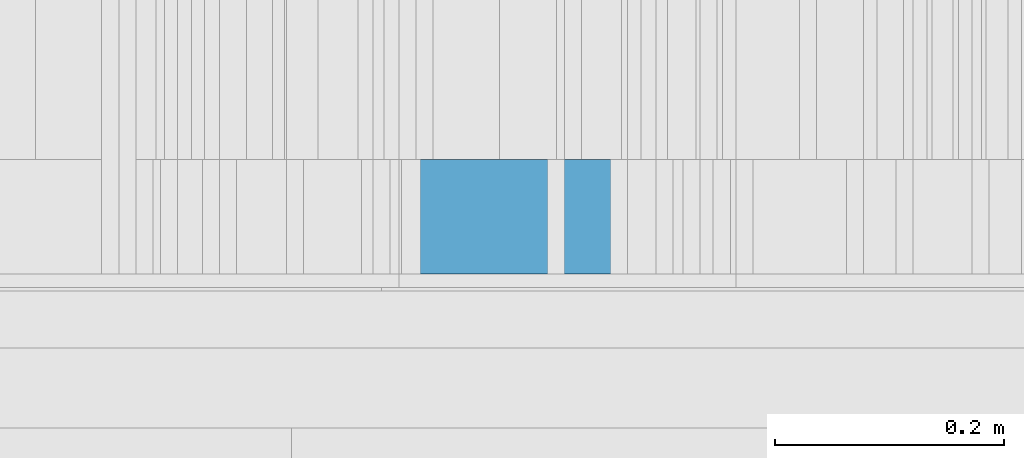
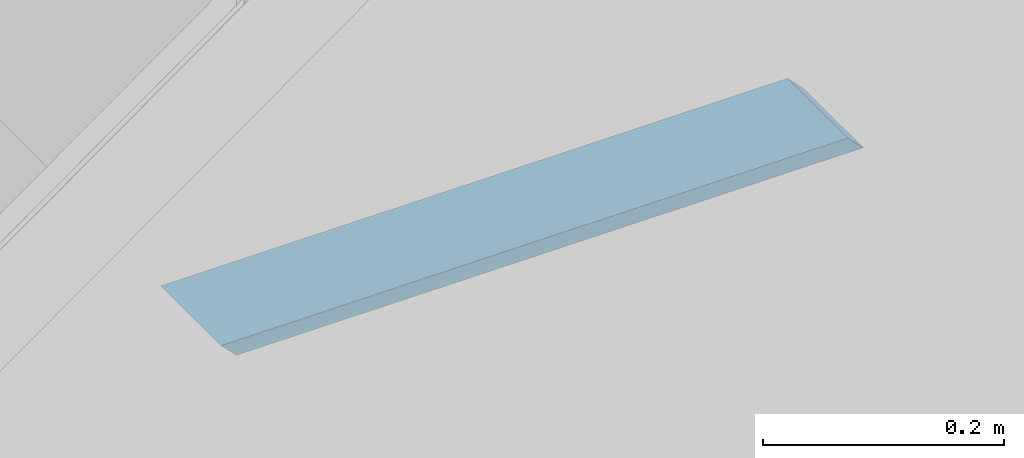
# One storey, part 179 of 583: 1 building element part, 1 element without a shape of its own.
"""IFC2X3 building model written with IfcOpenShell, lengths in metres."""

from ifc_helpers import new_model, entity, si_unit, converted_unit, derived_unit, money_unit, direction, frame, origin_with_axes, place, context, subcontext, project, spatial, polyline, outline, extrude, material, type_object, element, aggregate, save


model = new_model("IFC2X3")

# Units and contexts
model_context = context("Model", 3, precision=1e-05, world=origin_with_axes(), true_north=direction((0.0, 1.0)))
body_context = subcontext(model_context, "Body", "Model", "MODEL_VIEW", scale=1.0)
ifc_project = project(units=[si_unit("LENGTHUNIT", "METRE"), si_unit("AREAUNIT", "SQUARE_METRE"), si_unit("VOLUMEUNIT", "CUBIC_METRE"), si_unit("ABSORBEDDOSEUNIT", "GRAY"), si_unit("AMOUNTOFSUBSTANCEUNIT", "MOLE"), si_unit("DOSEEQUIVALENTUNIT", "SIEVERT"), si_unit("ELECTRICCAPACITANCEUNIT", "FARAD"), si_unit("ELECTRICCHARGEUNIT", "COULOMB"), si_unit("ELECTRICCONDUCTANCEUNIT", "SIEMENS"), si_unit("ELECTRICCURRENTUNIT", "AMPERE"), si_unit("ELECTRICRESISTANCEUNIT", "OHM"), si_unit("ELECTRICVOLTAGEUNIT", "VOLT"), si_unit("ENERGYUNIT", "JOULE"), si_unit("FORCEUNIT", "NEWTON"), si_unit("FREQUENCYUNIT", "HERTZ"), si_unit("ILLUMINANCEUNIT", "LUX"), si_unit("INDUCTANCEUNIT", "HENRY"), si_unit("LUMINOUSFLUXUNIT", "LUMEN"), si_unit("LUMINOUSINTENSITYUNIT", "CANDELA"), si_unit("MAGNETICFLUXDENSITYUNIT", "TESLA"), si_unit("MAGNETICFLUXUNIT", "WEBER"), si_unit("MASSUNIT", "GRAM"), converted_unit("PLANEANGLEUNIT", "degree", entity("IfcReal", 0.0174532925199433), si_unit("PLANEANGLEUNIT", "RADIAN"), dimensions=[0, 0, 0, 0, 0, 0, 0]), si_unit("POWERUNIT", "WATT"), si_unit("PRESSUREUNIT", "PASCAL"), si_unit("RADIOACTIVITYUNIT", "BECQUEREL"), si_unit("SOLIDANGLEUNIT", "STERADIAN"), si_unit("THERMODYNAMICTEMPERATUREUNIT", "KELVIN"), si_unit("TIMEUNIT", "SECOND"), derived_unit("ACCELERATIONUNIT", [(si_unit("LENGTHUNIT", "METRE"), 1), (si_unit("TIMEUNIT", "SECOND"), -2)]), derived_unit("ANGULARVELOCITYUNIT", [(converted_unit("PLANEANGLEUNIT", "degree", entity("IfcReal", 0.0174532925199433), si_unit("PLANEANGLEUNIT", "RADIAN"), dimensions=[0, 0, 0, 0, 0, 0, 0]), 1), (si_unit("TIMEUNIT", "SECOND"), -1)]), derived_unit("CURVATUREUNIT", [(converted_unit("PLANEANGLEUNIT", "degree", entity("IfcReal", 0.0174532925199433), si_unit("PLANEANGLEUNIT", "RADIAN"), dimensions=[0, 0, 0, 0, 0, 0, 0]), 1), (si_unit("LENGTHUNIT", "METRE"), -1)]), derived_unit("DYNAMICVISCOSITYUNIT", [(si_unit("PRESSUREUNIT", "PASCAL"), 1), (si_unit("TIMEUNIT", "SECOND"), 1)]), derived_unit("HEATFLUXDENSITYUNIT", [(si_unit("POWERUNIT", "WATT"), 1), (si_unit("LENGTHUNIT", "METRE"), -2)]), derived_unit("HEATINGVALUEUNIT", [(si_unit("ENERGYUNIT", "JOULE"), 1), (si_unit("MASSUNIT", "GRAM"), -1)]), derived_unit("INTEGERCOUNTRATEUNIT", [(si_unit("TIMEUNIT", "SECOND"), -1)]), derived_unit("IONCONCENTRATIONUNIT", [(si_unit("MASSUNIT", "GRAM"), 1), (si_unit("VOLUMEUNIT", "CUBIC_METRE"), -1)]), derived_unit("ISOTHERMALMOISTURECAPACITYUNIT", [(si_unit("VOLUMEUNIT", "CUBIC_METRE"), 1), (si_unit("MASSUNIT", "GRAM"), -1)]), derived_unit("KINEMATICVISCOSITYUNIT", [(si_unit("AREAUNIT", "SQUARE_METRE"), 1), (si_unit("TIMEUNIT", "SECOND"), -1)]), derived_unit("LINEARFORCEUNIT", [(si_unit("FORCEUNIT", "NEWTON"), 1), (si_unit("LENGTHUNIT", "METRE"), -1)]), derived_unit("LINEARMOMENTUNIT", [(si_unit("FORCEUNIT", "NEWTON"), 1), (si_unit("LENGTHUNIT", "METRE"), -1)]), derived_unit("LINEARSTIFFNESSUNIT", [(si_unit("FORCEUNIT", "NEWTON"), 1), (si_unit("LENGTHUNIT", "METRE"), -1)]), derived_unit("LINEARVELOCITYUNIT", [(si_unit("LENGTHUNIT", "METRE"), 1), (si_unit("TIMEUNIT", "SECOND"), -1)]), derived_unit("LUMINOUSINTENSITYDISTRIBUTIONUNIT", [(si_unit("LUMINOUSINTENSITYUNIT", "CANDELA"), 1), (si_unit("LUMINOUSFLUXUNIT", "LUMEN"), -1)]), derived_unit("MASSDENSITYUNIT", [(si_unit("MASSUNIT", "GRAM"), 1), (si_unit("VOLUMEUNIT", "CUBIC_METRE"), -1)]), derived_unit("MASSFLOWRATEUNIT", [(si_unit("MASSUNIT", "GRAM"), 1), (si_unit("TIMEUNIT", "SECOND"), -1)]), derived_unit("MASSPERLENGTHUNIT", [(si_unit("MASSUNIT", "GRAM"), 1), (si_unit("LENGTHUNIT", "METRE"), -1)]), derived_unit("MODULUSOFELASTICITYUNIT", [(si_unit("FORCEUNIT", "NEWTON"), 1), (si_unit("AREAUNIT", "SQUARE_METRE"), -1)]), derived_unit("MODULUSOFLINEARSUBGRADEREACTIONUNIT", [(si_unit("FORCEUNIT", "NEWTON"), 1), (si_unit("LENGTHUNIT", "METRE"), -2)]), derived_unit("MODULUSOFROTATIONALSUBGRADEREACTIONUNIT", [(si_unit("FORCEUNIT", "NEWTON"), 1), (si_unit("LENGTHUNIT", "METRE"), 1)]), derived_unit("MODULUSOFSUBGRADEREACTIONUNIT", [(si_unit("FORCEUNIT", "NEWTON"), 1), (si_unit("VOLUMEUNIT", "CUBIC_METRE"), -1)]), derived_unit("MOISTUREDIFFUSIVITYUNIT", [(si_unit("VOLUMEUNIT", "CUBIC_METRE"), 1), (si_unit("TIMEUNIT", "SECOND"), -1)]), derived_unit("MOLECULARWEIGHTUNIT", [(si_unit("MASSUNIT", "GRAM"), 1), (si_unit("AMOUNTOFSUBSTANCEUNIT", "MOLE"), -1)]), derived_unit("PLANARFORCEUNIT", [(si_unit("FORCEUNIT", "NEWTON"), 1), (si_unit("LENGTHUNIT", "METRE"), -2)]), derived_unit("ROTATIONALFREQUENCYUNIT", [(si_unit("TIMEUNIT", "SECOND"), -1)]), derived_unit("ROTATIONALMASSUNIT", [(si_unit("MASSUNIT", "GRAM"), 1), (si_unit("LENGTHUNIT", "METRE"), 2)]), derived_unit("ROTATIONALSTIFFNESSUNIT", [(si_unit("FORCEUNIT", "NEWTON"), 1), (si_unit("LENGTHUNIT", "METRE"), 1), (converted_unit("PLANEANGLEUNIT", "degree", entity("IfcReal", 0.0174532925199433), si_unit("PLANEANGLEUNIT", "RADIAN"), dimensions=[0, 0, 0, 0, 0, 0, 0]), -1)]), derived_unit("SECTIONAREAINTEGRALUNIT", [(si_unit("LENGTHUNIT", "METRE"), 5)]), derived_unit("SECTIONMODULUSUNIT", [(si_unit("LENGTHUNIT", "METRE"), 3)]), derived_unit("SHEARMODULUSUNIT", [(si_unit("FORCEUNIT", "NEWTON"), 1), (si_unit("AREAUNIT", "SQUARE_METRE"), -1)]), derived_unit("SOUNDPOWERUNIT", [(si_unit("ENERGYUNIT", "JOULE"), 1), (si_unit("TIMEUNIT", "SECOND"), -1)]), derived_unit("SPECIFICHEATCAPACITYUNIT", [(si_unit("FORCEUNIT", "NEWTON"), 1), (si_unit("MASSUNIT", "GRAM"), -1), (si_unit("THERMODYNAMICTEMPERATUREUNIT", "KELVIN"), -1)]), derived_unit("TEMPERATUREGRADIENTUNIT", [(si_unit("THERMODYNAMICTEMPERATUREUNIT", "KELVIN"), 1), (si_unit("LENGTHUNIT", "METRE"), -1)]), derived_unit("THERMALADMITTANCEUNIT", [(si_unit("POWERUNIT", "WATT"), 1), (si_unit("AREAUNIT", "SQUARE_METRE"), -1), (si_unit("THERMODYNAMICTEMPERATUREUNIT", "KELVIN"), -1)]), derived_unit("THERMALCONDUCTANCEUNIT", [(si_unit("POWERUNIT", "WATT"), 1), (si_unit("LENGTHUNIT", "METRE"), -1), (si_unit("THERMODYNAMICTEMPERATUREUNIT", "KELVIN"), -1)]), derived_unit("THERMALEXPANSIONCOEFFICIENTUNIT", [(si_unit("THERMODYNAMICTEMPERATUREUNIT", "KELVIN"), -1)]), derived_unit("THERMALRESISTANCEUNIT", [(si_unit("AREAUNIT", "SQUARE_METRE"), 1), (si_unit("POWERUNIT", "WATT"), -1)]), derived_unit("THERMALTRANSMITTANCEUNIT", [(si_unit("POWERUNIT", "WATT"), 1), (si_unit("AREAUNIT", "SQUARE_METRE"), -1), (si_unit("THERMODYNAMICTEMPERATUREUNIT", "KELVIN"), -1)]), derived_unit("TORQUEUNIT", [(si_unit("FORCEUNIT", "NEWTON"), 1), (si_unit("LENGTHUNIT", "METRE"), 1)]), derived_unit("VAPORPERMEABILITYUNIT", [(si_unit("MASSUNIT", "GRAM"), 1), (si_unit("TIMEUNIT", "SECOND"), -1)]), derived_unit("VOLUMETRICFLOWRATEUNIT", [(si_unit("VOLUMEUNIT", "CUBIC_METRE"), 1), (si_unit("TIMEUNIT", "SECOND"), -1)]), derived_unit("WARPINGCONSTANTUNIT", [(si_unit("LENGTHUNIT", "METRE"), 6)]), derived_unit("WARPINGMOMENTUNIT", [(si_unit("FORCEUNIT", "NEWTON"), 1), (si_unit("LENGTHUNIT", "METRE"), 2)]), money_unit("GBP")], contexts=[model_context])

# Site, building, storey
site_placement = place(None, origin_with_axes())
site = spatial("IfcSite", under=ifc_project, at=site_placement, Name="Site", CompositionType="ELEMENT")
building_placement = place(site_placement, origin_with_axes())
building = spatial("IfcBuilding", under=site, at=building_placement, Name="Building01", CompositionType="ELEMENT")
storey_placement = place(building_placement, frame((0.0, 0.0, 20.78), z_axis=(0.0, 0.0, 1.0), x_axis=(1.0, 0.0, 0.0)))
storey = spatial("IfcBuildingStorey", under=building, at=storey_placement, Name="RL", CompositionType="ELEMENT", Elevation=20.78)

# Wall, building element part
wall_type = type_object("IfcWallType", Name="SHE_A-Walls_Type05a_Partition_95mm_tall", PredefinedType="NOTDEFINED")
wall_placement = place(storey_placement, frame((6.571475, 5.15, -14.975331), z_axis=(0.0, 1.0, 0.0), x_axis=(1.0, 0.0, 0.0)))
wall = element("IfcWall", 1, at=wall_placement, inside=storey, type_object=wall_type, Name="5A", ObjectType="SHE_A-Walls_Type05a_Partition_95mm_tall")
ifc_material = material(Name="A_BSUK_Walls_Timber")
building_element_part_placement = place(wall_placement, origin_with_axes())
building_element_part = element("IfcBuildingElementPart", 2, at=building_element_part_placement, material=ifc_material, Name="2", context=body_context, shape_type="SweptSolid", body=[
    extrude(outline(polyline([(0.54, -0.06), (-0.06, -0.06), (-0.075, -0.075), (0.525, -0.075), (0.54, -0.06)])), frame((0.0, 0.0, 0.015), z_axis=(0.0, 0.0, 1.0), x_axis=(1.0, 0.0, 0.0)), (0.0, 0.0, 1.0), 0.1),
])
aggregate(wall, [building_element_part])

save(model, "model.ifc")
